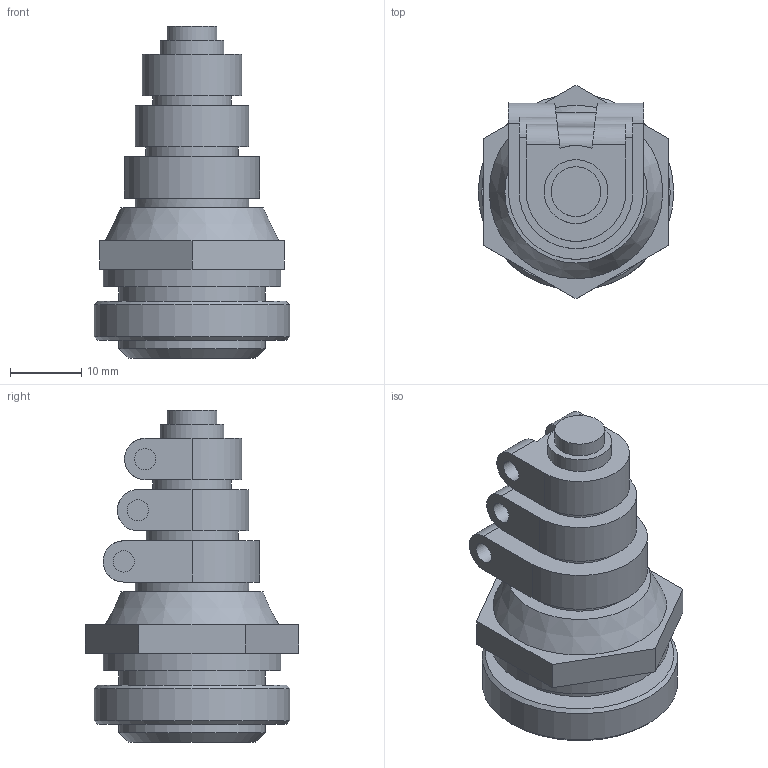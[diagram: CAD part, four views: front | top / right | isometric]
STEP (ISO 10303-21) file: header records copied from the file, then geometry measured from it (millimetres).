
FILE_DESCRIPTION(/* description */ ('オーム電機'),/* implementation_level */ '2;1');
FILE_NAME(/* name */ 'C:\Users\Fujimoto-s\OneDrive\Inventor\WorkSpace\\X2\305D306E4ED6\X0\\ホームページ用\\X2\30C030A630F330ED30FC30C97D206750\X0\\電装品\OA-1\OA-1.stp',/* time_stamp */ '2024-08-10T14:02:00+09:00',/* author */ ('Fujimoto-s'),/* organization */ (''),/* preprocessor_version */ 'ST-DEVELOPER v15.2',/* originating_system */ 'Autodesk Inventor 2014',/* authorisation */ '相手ﾀｯﾌﾟはG1/2');
FILE_SCHEMA (('AUTOMOTIVE_DESIGN { 1 0 10303 214 3 1 1 }'));
Length unit declared in the file: millimetre
Products named in the file (1): OA-1
Bounding box: 27.5 x 30.02 x 46.7 mm (x, y, z)
Volume: 13500.4 mm3; surface area: 5962.7 mm2
Topology: 1 solids, 1 shells, 75 faces, 171 edges, 114 vertices
Faces by surface type: plane 41, cylinder 30, cone 4
Full cylindrical faces by diameter (mm): 3 x8, 7 x1, 9 x1, 11 x1, 13 x1, 15 x1, 16 x1, 20.6 x2, 25 x1, 27.5 x1
Entity records: 2025 total; most frequent: CARTESIAN_POINT 380, DIRECTION 354, ORIENTED_EDGE 278, AXIS2_PLACEMENT_3D 142, EDGE_CURVE 139, EDGE_LOOP 120, VERTEX_POINT 105, ADVANCED_FACE 75
